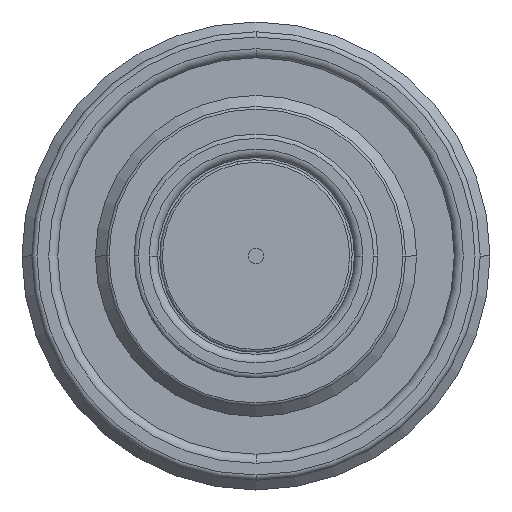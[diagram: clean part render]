
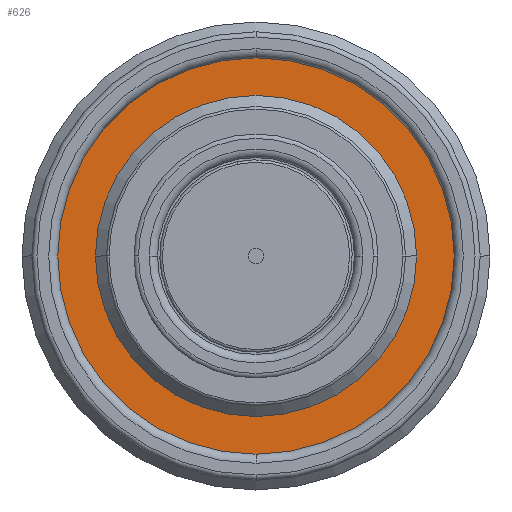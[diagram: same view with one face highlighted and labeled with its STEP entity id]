
A CAD part, front view. The second image highlights one B-rep face of the part: STEP entity #626.
In plain terms, the highlighted planar face has unit normal (0, -1, 0).
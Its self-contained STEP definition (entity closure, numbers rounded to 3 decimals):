
#270=PLANE('',#2750);
#312=FACE_BOUND('',#983,.T.);
#313=FACE_BOUND('',#984,.T.);
#626=ADVANCED_FACE('',(#312,#313),#270,.F.);
#983=EDGE_LOOP('',(#1325,#1326));
#984=EDGE_LOOP('',(#1327,#1328));
#1325=ORIENTED_EDGE('',*,*,#2187,.F.);
#1326=ORIENTED_EDGE('',*,*,#2159,.F.);
#1327=ORIENTED_EDGE('',*,*,#2155,.T.);
#1328=ORIENTED_EDGE('',*,*,#2188,.T.);
#1907=VERTEX_POINT('',#4106);
#1908=VERTEX_POINT('',#4108);
#1911=VERTEX_POINT('',#4115);
#1912=VERTEX_POINT('',#4117);
#2155=EDGE_CURVE('',#1908,#1907,#2468,.T.);
#2159=EDGE_CURVE('',#1911,#1912,#2471,.T.);
#2187=EDGE_CURVE('',#1912,#1911,#2486,.T.);
#2188=EDGE_CURVE('',#1907,#1908,#2487,.T.);
#2468=CIRCLE('',#2717,16.9);
#2471=CIRCLE('',#2721,12.35);
#2486=CIRCLE('',#2747,12.35);
#2487=CIRCLE('',#2749,16.9);
#2717=AXIS2_PLACEMENT_3D('',#4107,#3247,#3248);
#2721=AXIS2_PLACEMENT_3D('',#4116,#3256,#3257);
#2747=AXIS2_PLACEMENT_3D('',#4337,#3311,#3312);
#2749=AXIS2_PLACEMENT_3D('',#4339,#3315,#3316);
#2750=AXIS2_PLACEMENT_3D('',#4340,#3317,#3318);
#3247=DIRECTION('',(0.,-1.,0.));
#3248=DIRECTION('',(1.,0.,0.));
#3256=DIRECTION('',(0.,-1.,0.));
#3257=DIRECTION('',(1.,0.,0.));
#3311=DIRECTION('',(0.,-1.,0.));
#3312=DIRECTION('',(1.,0.,0.));
#3315=DIRECTION('',(0.,-1.,0.));
#3316=DIRECTION('',(1.,0.,0.));
#3317=DIRECTION('',(0.,1.,0.));
#3318=DIRECTION('',(1.,0.,0.));
#4106=CARTESIAN_POINT('',(-16.9,34.3,0.));
#4107=CARTESIAN_POINT('',(0.,34.3,0.));
#4108=CARTESIAN_POINT('',(16.9,34.3,0.));
#4115=CARTESIAN_POINT('',(12.35,34.3,0.));
#4116=CARTESIAN_POINT('',(0.,34.3,0.));
#4117=CARTESIAN_POINT('',(-12.35,34.3,0.));
#4337=CARTESIAN_POINT('',(0.,34.3,0.));
#4339=CARTESIAN_POINT('',(0.,34.3,0.));
#4340=CARTESIAN_POINT('',(0.,34.3,0.));
